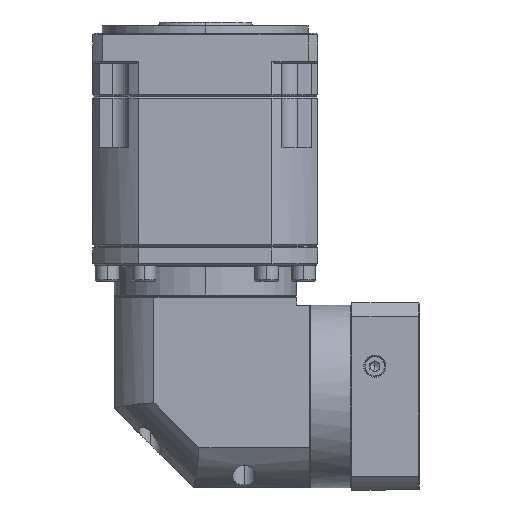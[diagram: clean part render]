
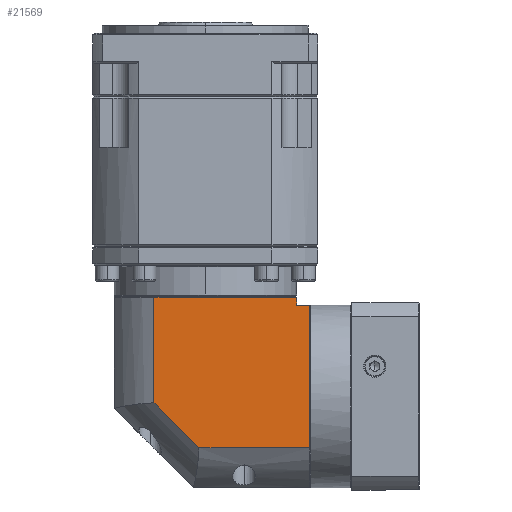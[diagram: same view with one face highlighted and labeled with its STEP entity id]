
A CAD part, left-side view. The second image highlights one B-rep face of the part: STEP entity #21569.
In plain terms, the highlighted planar face has unit normal (-1, 0, 0).
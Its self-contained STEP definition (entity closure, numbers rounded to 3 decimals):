
#2039 = LINE ( 'NONE', #136876, #142836 ) ;
#5136 = VECTOR ( 'NONE', #16276, 1000. ) ;
#7669 = EDGE_CURVE ( 'NONE', #128518, #63480, #40850, .T. ) ;
#8497 = EDGE_CURVE ( 'NONE', #168674, #116836, #2039, .T. ) ;
#9238 = DIRECTION ( 'NONE',  ( 0., 0., -1. ) ) ;
#13946 = CARTESIAN_POINT ( 'NONE',  ( -228.833, -130.267, 56.989 ) ) ;
#14638 = CARTESIAN_POINT ( 'NONE',  ( -228.833, -60.305, -32.911 ) ) ;
#16276 = DIRECTION ( 'NONE',  ( 0., 0., 1. ) ) ;
#18936 = CARTESIAN_POINT ( 'NONE',  ( -228.833, -121.867, -58.011 ) ) ;
#20387 = CARTESIAN_POINT ( 'NONE',  ( -228.833, -121.867, 56.989 ) ) ;
#20401 = ORIENTED_EDGE ( 'NONE', *, *, #8497, .F. ) ;
#21171 = CARTESIAN_POINT ( 'NONE',  ( -228.833, -6.867, 68.489 ) ) ;
#21569 = ADVANCED_FACE ( 'NONE', ( #88000 ), #101787, .F. ) ;
#22924 = DIRECTION ( 'NONE',  ( 0., 1., 0. ) ) ;
#24286 = LINE ( 'NONE', #112329, #5136 ) ;
#24584 = ORIENTED_EDGE ( 'NONE', *, *, #126711, .T. ) ;
#29218 = VERTEX_POINT ( 'NONE', #20387 ) ;
#32633 = DIRECTION ( 'NONE',  ( 0., 0., 1. ) ) ;
#36626 = CARTESIAN_POINT ( 'NONE',  ( -228.833, -130.267, 68.489 ) ) ;
#40850 = LINE ( 'NONE', #91287, #64376 ) ;
#49542 = DIRECTION ( 'NONE',  ( 0., 0.707, 0.707 ) ) ;
#56239 = CARTESIAN_POINT ( 'NONE',  ( -228.833, -121.867, 61.989 ) ) ;
#58428 = ORIENTED_EDGE ( 'NONE', *, *, #176783, .F. ) ;
#63480 = VERTEX_POINT ( 'NONE', #72017 ) ;
#64376 = VECTOR ( 'NONE', #49542, 1000. ) ;
#72017 = CARTESIAN_POINT ( 'NONE',  ( -228.833, -31.967, -4.573 ) ) ;
#76861 = LINE ( 'NONE', #82536, #78845 ) ;
#78845 = VECTOR ( 'NONE', #124215, 1000. ) ;
#81758 = ORIENTED_EDGE ( 'NONE', *, *, #161899, .T. ) ;
#82536 = CARTESIAN_POINT ( 'NONE',  ( -228.833, -121.867, 56.989 ) ) ;
#83750 = VECTOR ( 'NONE', #32633, 1000. ) ;
#88000 = FACE_OUTER_BOUND ( 'NONE', #121552, .T. ) ;
#91287 = CARTESIAN_POINT ( 'NONE',  ( -228.833, -60.305, -32.911 ) ) ;
#91439 = ORIENTED_EDGE ( 'NONE', *, *, #134513, .F. ) ;
#95900 = DIRECTION ( 'NONE',  ( 0., -1., 0. ) ) ;
#101787 = PLANE ( 'NONE',  #143167 ) ;
#109540 = VECTOR ( 'NONE', #9238, 1000. ) ;
#112329 = CARTESIAN_POINT ( 'NONE',  ( -228.833, -31.967, 68.489 ) ) ;
#116836 = VERTEX_POINT ( 'NONE', #56239 ) ;
#117023 = LINE ( 'NONE', #146236, #157445 ) ;
#118888 = CARTESIAN_POINT ( 'NONE',  ( -228.833, -31.967, 61.989 ) ) ;
#119206 = ORIENTED_EDGE ( 'NONE', *, *, #7669, .F. ) ;
#121552 = EDGE_LOOP ( 'NONE', ( #141685, #119206, #91439, #58428, #81758, #24584, #20401 ) ) ;
#121856 = VERTEX_POINT ( 'NONE', #162491 ) ;
#124215 = DIRECTION ( 'NONE',  ( 0., 1., 0. ) ) ;
#126711 = EDGE_CURVE ( 'NONE', #29218, #116836, #128527, .T. ) ;
#128518 = VERTEX_POINT ( 'NONE', #14638 ) ;
#128527 = LINE ( 'NONE', #18936, #83750 ) ;
#134513 = EDGE_CURVE ( 'NONE', #121856, #128518, #117023, .T. ) ;
#136876 = CARTESIAN_POINT ( 'NONE',  ( -228.833, -6.867, 61.989 ) ) ;
#141685 = ORIENTED_EDGE ( 'NONE', *, *, #153368, .F. ) ;
#142142 = VERTEX_POINT ( 'NONE', #13946 ) ;
#142764 = DIRECTION ( 'NONE',  ( 1., 0., 0. ) ) ;
#142836 = VECTOR ( 'NONE', #95900, 1000. ) ;
#143167 = AXIS2_PLACEMENT_3D ( 'NONE', #21171, #142764, #144479 ) ;
#144479 = DIRECTION ( 'NONE',  ( 0., 1., 0. ) ) ;
#146236 = CARTESIAN_POINT ( 'NONE',  ( -228.833, -6.867, -32.911 ) ) ;
#151978 = LINE ( 'NONE', #36626, #109540 ) ;
#153368 = EDGE_CURVE ( 'NONE', #63480, #168674, #24286, .T. ) ;
#157445 = VECTOR ( 'NONE', #22924, 1000. ) ;
#161899 = EDGE_CURVE ( 'NONE', #142142, #29218, #76861, .T. ) ;
#162491 = CARTESIAN_POINT ( 'NONE',  ( -228.833, -130.267, -32.911 ) ) ;
#168674 = VERTEX_POINT ( 'NONE', #118888 ) ;
#176783 = EDGE_CURVE ( 'NONE', #142142, #121856, #151978, .T. ) ;
